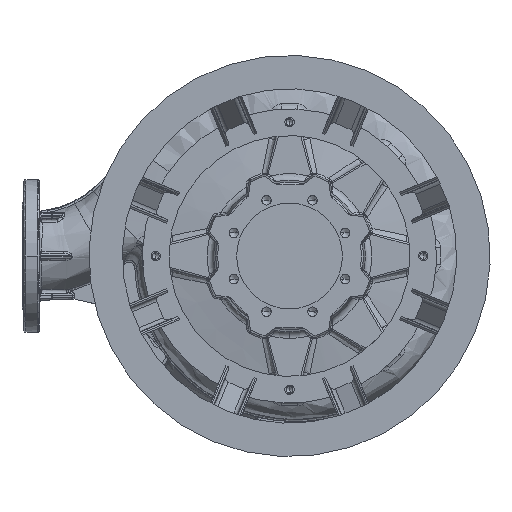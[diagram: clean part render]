
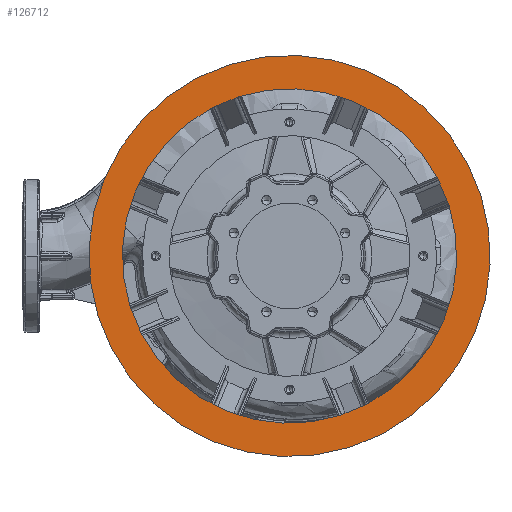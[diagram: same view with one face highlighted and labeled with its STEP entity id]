
A CAD part, front view. The second image highlights one B-rep face of the part: STEP entity #126712.
In plain terms, the highlighted planar face has unit normal (0, -1, 0).
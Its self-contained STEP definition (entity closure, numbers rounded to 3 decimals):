
#827 = EDGE_CURVE ( 'NONE', #158284, #130920, #139045, .T. ) ;
#1063 = VERTEX_POINT ( 'NONE', #60157 ) ;
#6181 = DIRECTION ( 'NONE',  ( -0.383, 0., -0.924 ) ) ;
#6501 = AXIS2_PLACEMENT_3D ( 'NONE', #149473, #53380, #39654 ) ;
#14279 = CARTESIAN_POINT ( 'NONE',  ( 0., -620.5, 0. ) ) ;
#17068 = CARTESIAN_POINT ( 'NONE',  ( -95.671, -620.5, -230.97 ) ) ;
#20610 = CARTESIAN_POINT ( 'NONE',  ( 0., -620.5, 0. ) ) ;
#24485 = AXIS2_PLACEMENT_3D ( 'NONE', #14279, #110436, #28117 ) ;
#28117 = DIRECTION ( 'NONE',  ( -0.383, 0., -0.924 ) ) ;
#34445 = DIRECTION ( 'NONE',  ( -0.383, 0., -0.924 ) ) ;
#37331 = CARTESIAN_POINT ( 'NONE',  ( 0., -620.5, 0. ) ) ;
#39654 = DIRECTION ( 'NONE',  ( -0.383, 0., -0.924 ) ) ;
#41282 = AXIS2_PLACEMENT_3D ( 'NONE', #37331, #133441, #51101 ) ;
#42431 = EDGE_LOOP ( 'NONE', ( #154976, #78803 ) ) ;
#50637 = EDGE_CURVE ( 'NONE', #119641, #1063, #173475, .T. ) ;
#51101 = DIRECTION ( 'NONE',  ( -0.383, 0., -0.924 ) ) ;
#53380 = DIRECTION ( 'NONE',  ( 0., 1., 0. ) ) ;
#54722 = EDGE_CURVE ( 'NONE', #1063, #119641, #147366, .T. ) ;
#60157 = CARTESIAN_POINT ( 'NONE',  ( -114.805, -620.5, -277.164 ) ) ;
#61009 = ORIENTED_EDGE ( 'NONE', *, *, #54722, .F. ) ;
#78803 = ORIENTED_EDGE ( 'NONE', *, *, #149261, .T. ) ;
#80987 = AXIS2_PLACEMENT_3D ( 'NONE', #20610, #116808, #34445 ) ;
#88470 = DIRECTION ( 'NONE',  ( 0., 1., 0. ) ) ;
#110436 = DIRECTION ( 'NONE',  ( 0., 1., 0. ) ) ;
#115562 = PLANE ( 'NONE',  #154367 ) ;
#116808 = DIRECTION ( 'NONE',  ( 0., 1., 0. ) ) ;
#119641 = VERTEX_POINT ( 'NONE', #161262 ) ;
#126712 = ADVANCED_FACE ( 'NONE', ( #176772, #140337 ), #115562, .F. ) ;
#130920 = VERTEX_POINT ( 'NONE', #17068 ) ;
#133441 = DIRECTION ( 'NONE',  ( 0., 1., 0. ) ) ;
#137763 = CIRCLE ( 'NONE', #24485, 250. ) ;
#139045 = CIRCLE ( 'NONE', #6501, 250. ) ;
#140337 = FACE_BOUND ( 'NONE', #42431, .T. ) ;
#147366 = CIRCLE ( 'NONE', #80987, 300. ) ;
#149261 = EDGE_CURVE ( 'NONE', #130920, #158284, #137763, .T. ) ;
#149473 = CARTESIAN_POINT ( 'NONE',  ( 0., -620.5, 0. ) ) ;
#154367 = AXIS2_PLACEMENT_3D ( 'NONE', #170591, #88470, #6181 ) ;
#154976 = ORIENTED_EDGE ( 'NONE', *, *, #827, .T. ) ;
#158284 = VERTEX_POINT ( 'NONE', #167182 ) ;
#161262 = CARTESIAN_POINT ( 'NONE',  ( 114.805, -620.5, 277.164 ) ) ;
#164959 = EDGE_LOOP ( 'NONE', ( #167222, #61009 ) ) ;
#167182 = CARTESIAN_POINT ( 'NONE',  ( 95.671, -620.5, 230.97 ) ) ;
#167222 = ORIENTED_EDGE ( 'NONE', *, *, #50637, .F. ) ;
#170591 = CARTESIAN_POINT ( 'NONE',  ( 0., -620.5, 0. ) ) ;
#173475 = CIRCLE ( 'NONE', #41282, 300. ) ;
#176772 = FACE_OUTER_BOUND ( 'NONE', #164959, .T. ) ;
